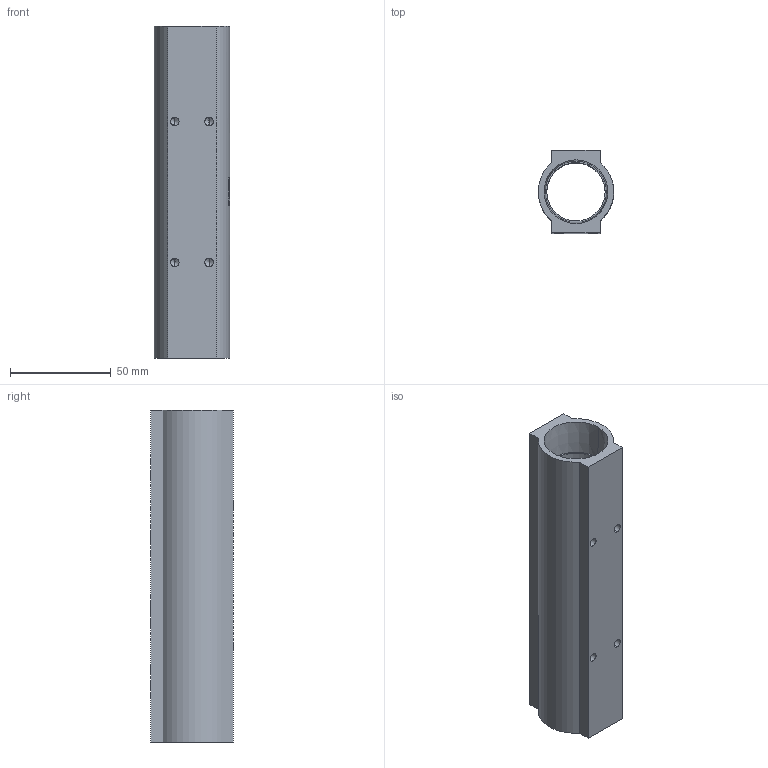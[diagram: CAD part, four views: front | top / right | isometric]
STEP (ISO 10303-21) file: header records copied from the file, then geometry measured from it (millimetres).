
FILE_DESCRIPTION (( 'STEP AP214' ), '1' );
FILE_NAME ('BWM4616B.STEP', '2022-03-15T05:19:54', ( '' ), ( '' ), 'SwSTEP 2.0', 'SolidWorks 2020', '' );
FILE_SCHEMA (( 'AUTOMOTIVE_DESIGN' ));
Length unit declared in the file: millimetre
Products named in the file (1): BWM4616B
Bounding box: 37.44 x 41 x 165 mm (x, y, z)
Volume: 88881.6 mm3; surface area: 39277.8 mm2
Topology: 1 solids, 1 shells, 209 faces, 556 edges, 364 vertices
Faces by surface type: plane 106, cylinder 42, bspline 41, cone 20
Entity records: 11054 total; most frequent: CARTESIAN_POINT 4439, ORIENTED_EDGE 1096, DIRECTION 760, EDGE_CURVE 548, VERTEX_POINT 364, VECTOR 282, LINE 282, EDGE_LOOP 242
